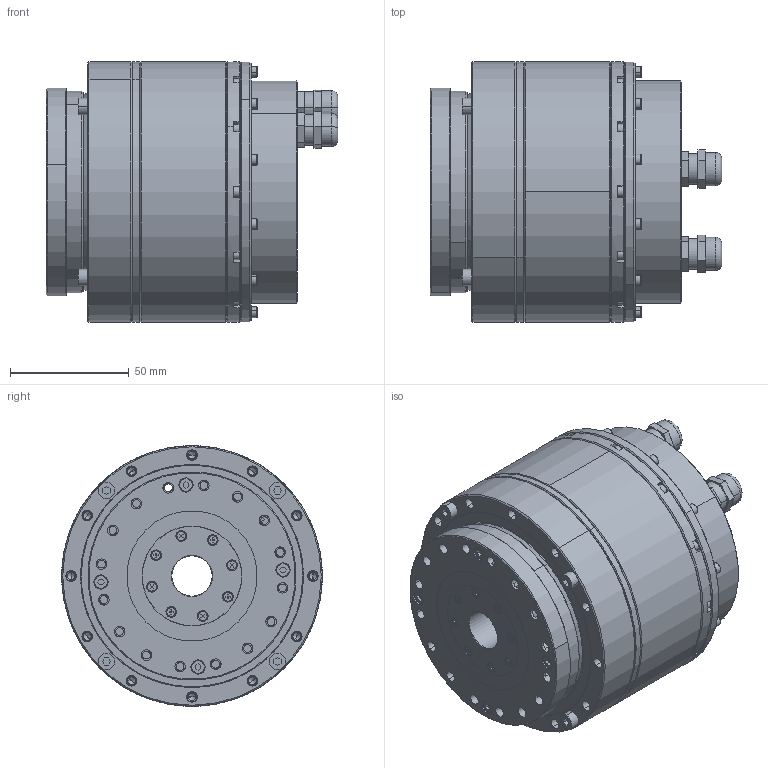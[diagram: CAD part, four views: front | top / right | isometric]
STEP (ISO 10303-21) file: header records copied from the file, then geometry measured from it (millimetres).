
FILE_DESCRIPTION (( 'STEP AP203' ), '1' );
FILE_NAME ('KAH-25CM3NE 軞蚾饜芞.STEP', '2020-09-03T03:20:43', ( '' ), ( '' ), 'SwSTEP 2.0', 'SolidWorks 2016', '' );
FILE_SCHEMA (( 'CONFIG_CONTROL_DESIGN' ));
Length unit declared in the file: millimetre
Products named in the file (1): KAH-25CM3NE 軞蚾饜芞
Bounding box: 122.9 x 110 x 110 mm (x, y, z)
Volume: 211320.3 mm3; surface area: 174207.2 mm2
Topology: 56 solids, 56 shells, 2009 faces, 5230 edges, 3315 vertices
Faces by surface type: cylinder 781, plane 624, cone 296, torus 192, sphere 112, bspline 4
Entity records: 65312 total; most frequent: CARTESIAN_POINT 14295, DIRECTION 11287, ORIENTED_EDGE 10316, EDGE_CURVE 5158, AXIS2_PLACEMENT_3D 4563, VERTEX_POINT 3315, CIRCLE 2557, EDGE_LOOP 2429
